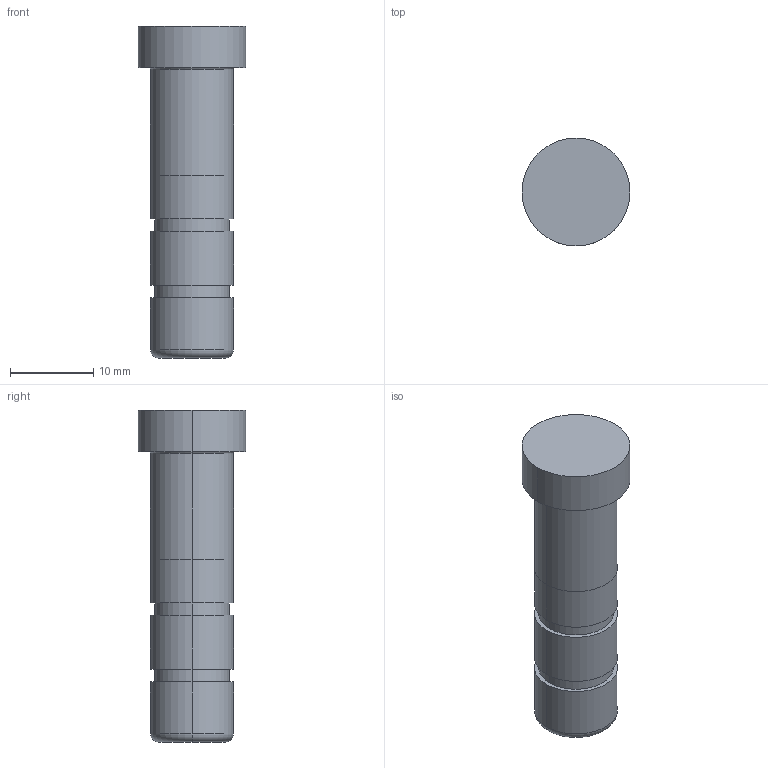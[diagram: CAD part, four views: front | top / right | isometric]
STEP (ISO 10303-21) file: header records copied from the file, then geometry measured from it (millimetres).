
FILE_DESCRIPTION(/* description */ (''),/* implementation_level */ '2;1');
FILE_NAME(/* name */ '3d_sgoh10-40_05216_r00.stp',/* time_stamp */ '2011-01-10T14:11:10+09:00',/* author */ ('MISUMI'),/* organization */ (''),/* preprocessor_version */ 'ST-DEVELOPER v11',/* originating_system */ 'UGS - NX 5.0',/* authorisation */ '');
FILE_SCHEMA (('CONFIG_CONTROL_DESIGN'));
Length unit declared in the file: millimetre
Products named in the file (1): 3d_sgoh10-40_05216_r00
Bounding box: 13 x 13 x 40 mm (x, y, z)
Volume: 3361.8 mm3; surface area: 1602.2 mm2
Topology: 1 solids, 1 shells, 25 faces, 48 edges, 30 vertices
Faces by surface type: cylinder 14, plane 7, torus 4
Entity records: 734 total; most frequent: DIRECTION 134, CARTESIAN_POINT 104, ORIENTED_EDGE 96, AXIS2_PLACEMENT_3D 60, EDGE_CURVE 48, CIRCLE 34, EDGE_LOOP 30, VERTEX_POINT 30
